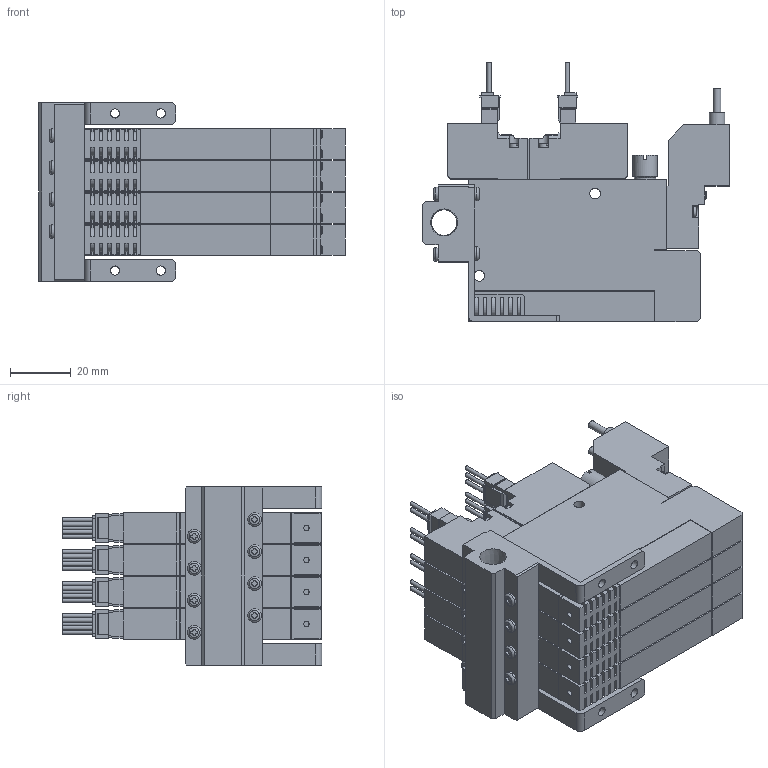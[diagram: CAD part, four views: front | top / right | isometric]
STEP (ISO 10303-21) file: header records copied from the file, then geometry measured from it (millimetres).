
FILE_DESCRIPTION(('STEP AP203'),'1');
FILE_NAME('5WS404_3D.stp','2024-09-04T13:57:20',(' '),(' '),'Spatial InterOp 3D',' ',' ');
FILE_SCHEMA(('CONFIG_CONTROL_DESIGN'));
Length unit declared in the file: millimetre
Products named in the file (5): BSC1M※※V8※5WS404; Solenoid valve W; Pressure Sensor V8; Unit-S; BaseMS40R
Assembly tree (13 placements, depth 2):
  BSC1M※※V8※5WS404
    Solenoid valve W  x4
    Pressure Sensor V8  x4
    Unit-S  x4
    BaseMS40R
Bounding box: 100.5 x 85.05 x 58.5 mm (x, y, z)
Volume: 204710.6 mm3; surface area: 84424.6 mm2
Topology: 13 solids, 13 shells, 2007 faces, 5475 edges, 3630 vertices
Faces by surface type: plane 1482, cylinder 447, cone 30, torus 28, sphere 20
Full cylindrical faces by diameter (mm): 1.4 x20, 1.8 x4, 2.5 x20, 3 x20, 3.5 x24, 4 x4, 4.134 x8, 4.5 x12, 5 x4, 5.5 x4, 7 x4, 7.7 x4, 8 x4, 8.422 x1
Entity records: 21235 total; most frequent: CARTESIAN_POINT 4661, ORIENTED_EDGE 3312, DIRECTION 3283, EDGE_CURVE 1656, LINE 1173, VECTOR 1173, VERTEX_POINT 1147, AXIS2_PLACEMENT_3D 1055
